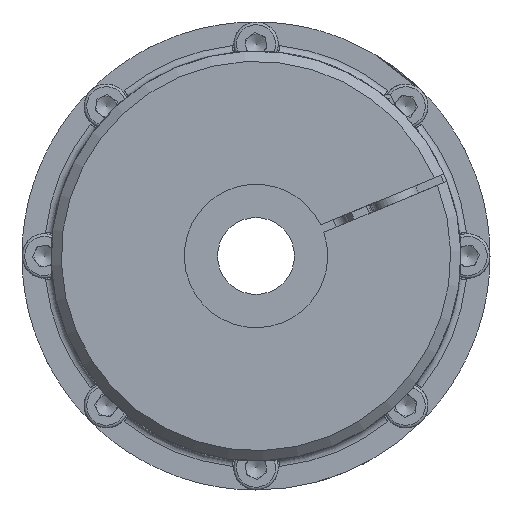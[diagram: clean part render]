
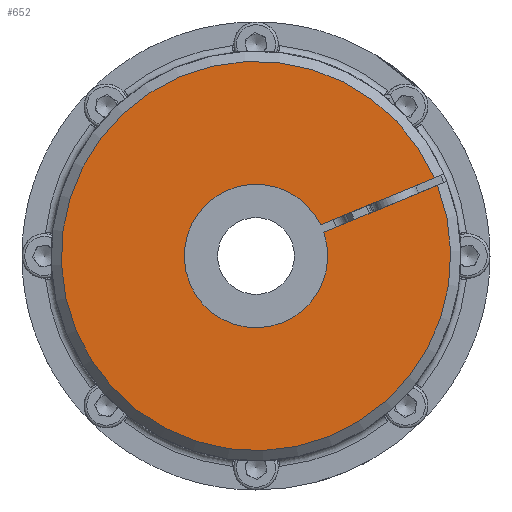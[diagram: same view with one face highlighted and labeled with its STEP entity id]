
A CAD part, left-side view. The second image highlights one B-rep face of the part: STEP entity #652.
In plain terms, the highlighted planar face has unit normal (-1, 0, 0).
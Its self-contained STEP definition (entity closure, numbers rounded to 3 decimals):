
#652 = ADVANCED_FACE( '', ( #1827 ), #1828, .T. );
#1827 = FACE_OUTER_BOUND( '', #3716, .T. );
#1828 = PLANE( '', #3717 );
#3716 = EDGE_LOOP( '', ( #5802, #5803, #5804, #5805 ) );
#3717 = AXIS2_PLACEMENT_3D( '', #5806, #5807, #5808 );
#5802 = ORIENTED_EDGE( '', *, *, #10545, .T. );
#5803 = ORIENTED_EDGE( '', *, *, #10546, .F. );
#5804 = ORIENTED_EDGE( '', *, *, #10332, .T. );
#5805 = ORIENTED_EDGE( '', *, *, #10547, .T. );
#5806 = CARTESIAN_POINT( '', ( -92.5, 4.592, 11.087 ) );
#5807 = DIRECTION( '', ( -1., 0., 0. ) );
#5808 = DIRECTION( '', ( 0., 0., 1. ) );
#10332 = EDGE_CURVE( '', #12212, #12218, #12220, .T. );
#10545 = EDGE_CURVE( '', #12602, #12603, #12604, .T. );
#10546 = EDGE_CURVE( '', #12212, #12603, #12605, .T. );
#10547 = EDGE_CURVE( '', #12218, #12602, #12606, .T. );
#12212 = VERTEX_POINT( '', #14987 );
#12218 = VERTEX_POINT( '', #14996 );
#12220 = LINE( '', #14999, #15000 );
#12602 = VERTEX_POINT( '', #15587 );
#12603 = VERTEX_POINT( '', #15588 );
#12604 = LINE( '', #15589, #15590 );
#12605 = CIRCLE( '', #15591, 21. );
#12606 = CIRCLE( '', #15592, 57. );
#14987 = CARTESIAN_POINT( '', ( -92.5, -18.929, 9.094 ) );
#14996 = CARTESIAN_POINT( '', ( -92.5, -52.207, 22.878 ) );
#14999 = CARTESIAN_POINT( '', ( -92.5, -10.312, 5.525 ) );
#15000 = VECTOR( '', #21306, 1000. );
#15587 = CARTESIAN_POINT( '', ( -92.5, -53.109, 20.699 ) );
#15588 = CARTESIAN_POINT( '', ( -92.5, -19.829, 6.915 ) );
#15589 = CARTESIAN_POINT( '', ( -92.5, -57.409, 22.481 ) );
#15590 = VECTOR( '', #21640, 1000. );
#15591 = AXIS2_PLACEMENT_3D( '', #21641, #21642, #21643 );
#15592 = AXIS2_PLACEMENT_3D( '', #21644, #21645, #21646 );
#21306 = DIRECTION( '', ( 0., -0.924, 0.383 ) );
#21640 = DIRECTION( '', ( 0., 0.924, -0.383 ) );
#21641 = CARTESIAN_POINT( '', ( -92.5, 0., 0. ) );
#21642 = DIRECTION( '', ( -1., 0., 0. ) );
#21643 = DIRECTION( '', ( 0., -0.924, 0.383 ) );
#21644 = CARTESIAN_POINT( '', ( -92.5, 0., 0. ) );
#21645 = DIRECTION( '', ( -1., 0., 0. ) );
#21646 = DIRECTION( '', ( 0., 0.383, 0.924 ) );
